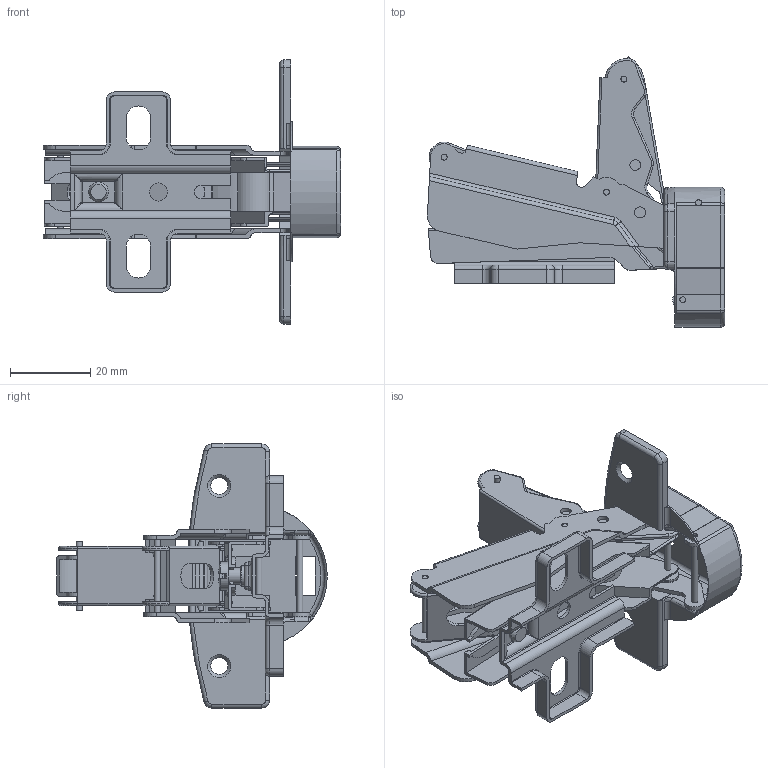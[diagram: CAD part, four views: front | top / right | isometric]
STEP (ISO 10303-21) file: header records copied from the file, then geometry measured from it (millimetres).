
FILE_DESCRIPTION(/* description */ (''),/* implementation_level */ '2;1');
FILE_NAME(/* name */ 'W:\R&D\pub\Katalog techniczny\bryły 3D\ZP-KT165-BE.stp',/* time_stamp */ '2016-10-26T08:25:25+02:00',/* author */ ('tomaszw'),/* organization */ (''),/* preprocessor_version */ 'ST-DEVELOPER v16.1',/* originating_system */ 'Autodesk Inventor 2016',/* authorisation */ '');
FILE_SCHEMA (('AUTOMOTIVE_DESIGN { 1 0 10303 214 3 1 1 }'));
Length unit declared in the file: millimetre
Products named in the file (15): ZP-KT-P; ZP-KT165; ZP-KT165_2; ZP-KT165_1; ZP-KT165_3; ZP-KT165_Pin2; ZP-KT165_Pin1; Wkret4x6; ZP-KT165_5; ZP-KT165_2_1; ZP-KT165_5_1; ZP-KT165_3_1; ZP-KT165_6; ZP-KT165_4; ZP-KT165-ZE(BE)
Assembly tree (20 placements, depth 2):
  ZP-KT165-ZE(BE)
    ZP-KT-P
    ZP-KT165
    ZP-KT165_2
    ZP-KT165_1
    ZP-KT165_3
    ZP-KT165_Pin2  x4
    ZP-KT165_Pin1  x4
    Wkret4x6
    ZP-KT165_5
    ZP-KT165_2_1
    ZP-KT165_5_1
    ZP-KT165_3_1
    ZP-KT165_6
    ZP-KT165_4
Bounding box: 74.25 x 67.6 x 66 mm (x, y, z)
Volume: 11959.9 mm3; surface area: 28531.3 mm2
Topology: 17 solids, 17 shells, 742 faces, 1911 edges, 1192 vertices
Faces by surface type: cylinder 333, plane 276, torus 75, bspline 30, sphere 20, cone 8
Full cylindrical faces by diameter (mm): 1.5 x35, 2.679 x2, 2.765 x2, 3.5 x1, 4 x1, 4.5 x1, 5 x1, 6 x2, 7 x1, 8 x1, 9.6 x1, 35 x1
Entity records: 24064 total; most frequent: CARTESIAN_POINT 4854, DIRECTION 4048, ORIENTED_EDGE 3666, EDGE_CURVE 1833, AXIS2_PLACEMENT_3D 1546, VERTEX_POINT 1175, LINE 956, VECTOR 956
